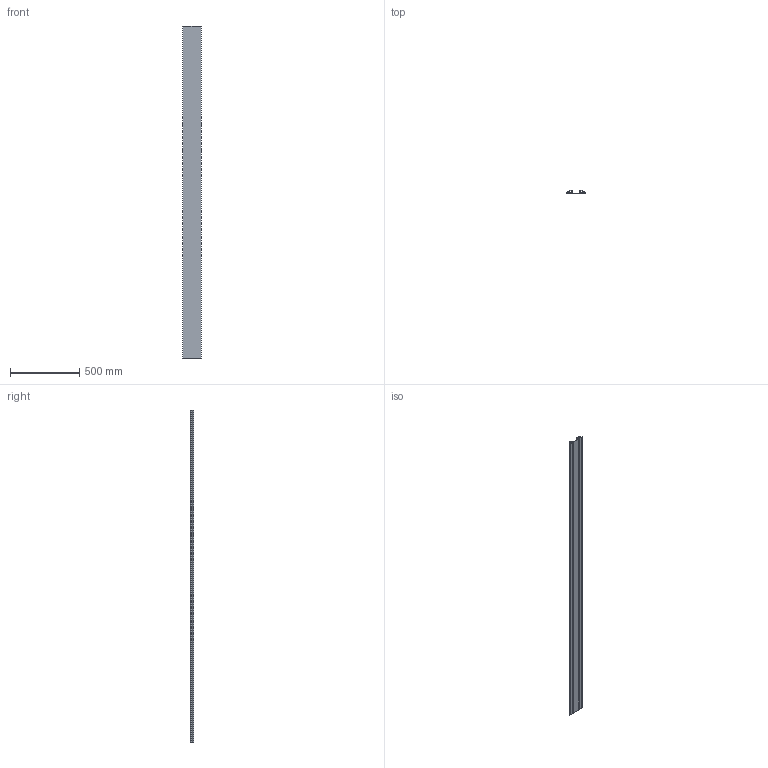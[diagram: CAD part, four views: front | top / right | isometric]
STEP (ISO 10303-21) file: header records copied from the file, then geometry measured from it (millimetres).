
FILE_DESCRIPTION(/* description */ ('STEP AP214'),/* implementation_level */ '2;1');
FILE_NAME(/* name */ ' 02082PO55.2400',/* time_stamp */ '2026-01-21T15:39:57+01:00',/* author */ ('License CC BY-ND 4.0'),/* organization */ ('CADENAS'),/* preprocessor_version */ 'ST-DEVELOPER v20',/* originating_system */ 'PARTsolutions',/* authorisation */ ' ');
FILE_SCHEMA (('AUTOMOTIVE_DESIGN {1 0 10303 214 3 1 1}'));
Length unit declared in the file: millimetre
Products named in the file (1):  02082PO55.2400
Bounding box: 135.5 x 22.7 x 2400 mm (x, y, z)
Volume: 1356463.2 mm3; surface area: 1333769.4 mm2
Topology: 1 solids, 1 shells, 92 faces, 270 edges, 180 vertices
Faces by surface type: plane 56, cylinder 36
Entity records: 3104 total; most frequent: CARTESIAN_POINT 543, ORIENTED_EDGE 540, DIRECTION 528, EDGE_CURVE 270, LINE 198, VECTOR 198, VERTEX_POINT 180, AXIS2_PLACEMENT_3D 165
